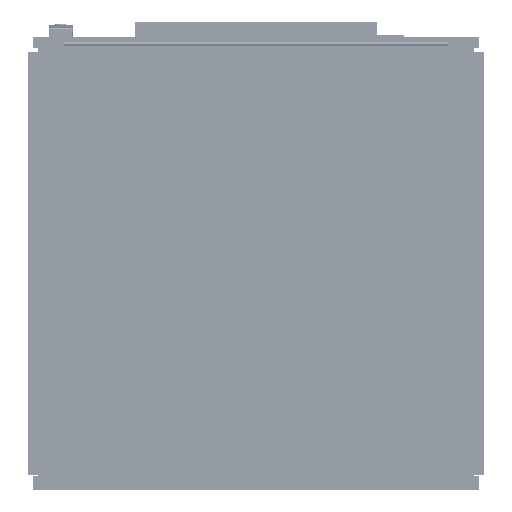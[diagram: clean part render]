
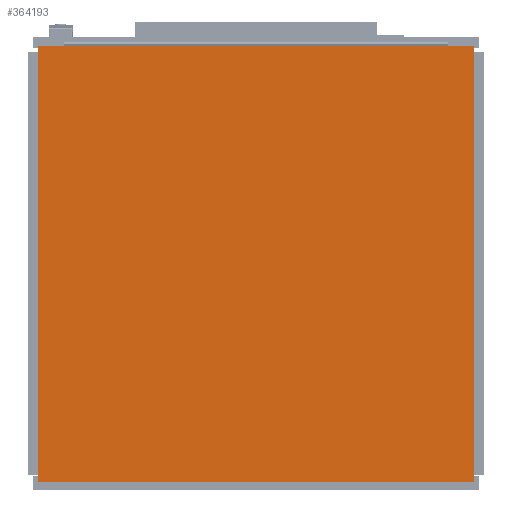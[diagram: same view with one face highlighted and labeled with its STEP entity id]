
A CAD part, front view. The second image highlights one B-rep face of the part: STEP entity #364193.
In plain terms, the highlighted planar face has unit normal (0, -1, 0) as drawn and (0, 0, -1) by its records, which use the part's own axes.
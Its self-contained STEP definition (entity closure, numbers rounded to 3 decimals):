
#364114=DIRECTION('',(0.,-1.,0.));
#364115=VECTOR('',#364114,580.);
#364116=CARTESIAN_POINT('',(-290.,290.,-50.));
#364117=LINE('',#364116,#364115);
#364118=DIRECTION('',(1.,0.,0.));
#364119=VECTOR('',#364118,580.);
#364120=CARTESIAN_POINT('',(-290.,-290.,-50.));
#364121=LINE('',#364120,#364119);
#364122=DIRECTION('',(0.,1.,0.));
#364123=VECTOR('',#364122,580.);
#364124=CARTESIAN_POINT('',(290.,-290.,-50.));
#364125=LINE('',#364124,#364123);
#364126=DIRECTION('',(-1.,0.,0.));
#364127=VECTOR('',#364126,580.);
#364128=CARTESIAN_POINT('',(290.,290.,-50.));
#364129=LINE('',#364128,#364127);
#364162=CARTESIAN_POINT('',(-290.,290.,-50.));
#364163=CARTESIAN_POINT('',(-290.,-290.,-50.));
#364164=VERTEX_POINT('',#364162);
#364165=VERTEX_POINT('',#364163);
#364166=CARTESIAN_POINT('',(290.,-290.,-50.));
#364167=VERTEX_POINT('',#364166);
#364168=CARTESIAN_POINT('',(290.,290.,-50.));
#364169=VERTEX_POINT('',#364168);
#364178=CARTESIAN_POINT('',(0.,0.,-50.));
#364179=DIRECTION('',(0.,0.,1.));
#364180=DIRECTION('',(1.,0.,0.));
#364181=AXIS2_PLACEMENT_3D('',#364178,#364179,#364180);
#364182=PLANE('',#364181);
#364184=ORIENTED_EDGE('',*,*,#364183,.T.);
#364186=ORIENTED_EDGE('',*,*,#364185,.T.);
#364188=ORIENTED_EDGE('',*,*,#364187,.T.);
#364190=ORIENTED_EDGE('',*,*,#364189,.T.);
#364191=EDGE_LOOP('',(#364184,#364186,#364188,#364190));
#364192=FACE_OUTER_BOUND('',#364191,.F.);
#364193=ADVANCED_FACE('',(#364192),#364182,.F.);
#364183=EDGE_CURVE('',#364164,#364165,#364117,.T.);
#364185=EDGE_CURVE('',#364165,#364167,#364121,.T.);
#364187=EDGE_CURVE('',#364167,#364169,#364125,.T.);
#364189=EDGE_CURVE('',#364169,#364164,#364129,.T.);
